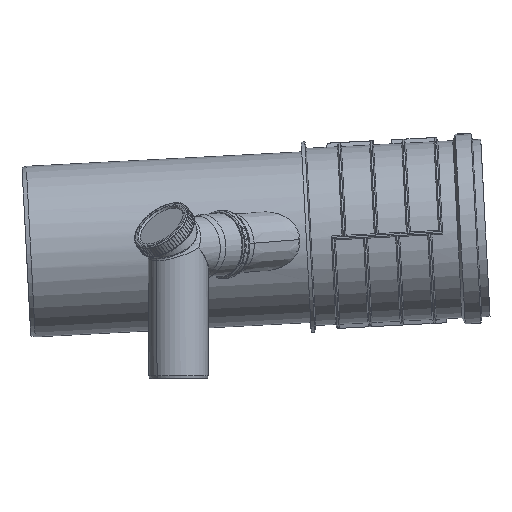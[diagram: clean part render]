
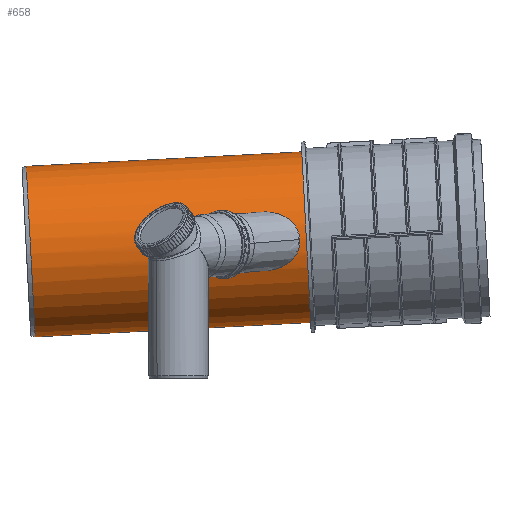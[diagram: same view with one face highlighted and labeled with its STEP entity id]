
A CAD part, top view. The second image highlights one B-rep face of the part: STEP entity #658.
In plain terms, the highlighted cylindrical face has radius 157.5 mm (diameter 315 mm), a partial arc.
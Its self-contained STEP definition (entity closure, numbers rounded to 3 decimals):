
#424=DIRECTION('',(0.,0.,-1.));
#425=VECTOR('',#424,511.5);
#426=CARTESIAN_POINT('',(-157.5,0.,656.));
#427=LINE('1107296302',#426,#425);
#433=DIRECTION('',(0.,0.,-1.));
#434=VECTOR('',#433,511.5);
#435=CARTESIAN_POINT('',(157.5,0.,656.));
#436=LINE('1107296300',#435,#434);
#437=CARTESIAN_POINT('',(0.,0.,144.5));
#438=DIRECTION('',(0.,0.,-1.));
#439=DIRECTION('',(-1.,0.,0.));
#440=AXIS2_PLACEMENT_3D('',#437,#438,#439);
#442=CARTESIAN_POINT('',(0.,0.,656.));
#443=DIRECTION('',(0.,0.,1.));
#444=DIRECTION('',(1.,0.,0.));
#445=AXIS2_PLACEMENT_3D('',#442,#443,#444);
#447=CARTESIAN_POINT('',(0.,157.5,163.05));
#448=CARTESIAN_POINT('',(3.119,157.5,163.05));
#449=CARTESIAN_POINT('',(9.238,157.317,163.661));
#450=CARTESIAN_POINT('',(18.158,156.53,166.389));
#451=CARTESIAN_POINT('',(26.418,155.339,170.843));
#452=CARTESIAN_POINT('',(34.084,153.826,177.253));
#453=CARTESIAN_POINT('',(40.634,152.21,185.456));
#454=CARTESIAN_POINT('',(46.048,150.644,195.851));
#455=CARTESIAN_POINT('',(49.852,149.412,208.26));
#456=CARTESIAN_POINT('',(51.688,148.777,222.56));
#457=CARTESIAN_POINT('',(51.447,148.861,236.367));
#458=CARTESIAN_POINT('',(49.799,149.426,248.824));
#459=CARTESIAN_POINT('',(47.254,150.254,259.731));
#460=CARTESIAN_POINT('',(44.14,151.201,269.219));
#461=CARTESIAN_POINT('',(40.687,152.169,277.367));
#462=CARTESIAN_POINT('',(37.051,153.096,284.305));
#463=CARTESIAN_POINT('',(33.304,153.955,290.216));
#464=CARTESIAN_POINT('',(29.416,154.746,295.32));
#465=CARTESIAN_POINT('',(25.374,155.461,299.709));
#466=CARTESIAN_POINT('',(21.115,156.1,303.477));
#467=CARTESIAN_POINT('',(16.446,156.665,306.709));
#468=CARTESIAN_POINT('',(11.294,157.126,309.278));
#469=CARTESIAN_POINT('',(5.718,157.43,310.945));
#470=CARTESIAN_POINT('',(1.929,157.5,311.324));
#471=CARTESIAN_POINT('',(0.,157.5,311.324));
#473=CARTESIAN_POINT('',(0.,157.5,311.324));
#474=CARTESIAN_POINT('',(-1.922,157.5,311.324));
#475=CARTESIAN_POINT('',(-5.699,157.431,310.947));
#476=CARTESIAN_POINT('',(-11.256,157.128,309.292));
#477=CARTESIAN_POINT('',(-16.399,156.67,306.736));
#478=CARTESIAN_POINT('',(-21.06,156.107,303.519));
#479=CARTESIAN_POINT('',(-25.303,155.473,299.778));
#480=CARTESIAN_POINT('',(-29.323,154.764,295.43));
#481=CARTESIAN_POINT('',(-33.194,153.979,290.372));
#482=CARTESIAN_POINT('',(-36.927,153.125,284.517));
#483=CARTESIAN_POINT('',(-40.55,152.205,277.653));
#484=CARTESIAN_POINT('',(-44.001,151.242,269.585));
#485=CARTESIAN_POINT('',(-47.125,150.295,260.183));
#486=CARTESIAN_POINT('',(-49.696,149.46,249.371));
#487=CARTESIAN_POINT('',(-51.394,148.88,237.004));
#488=CARTESIAN_POINT('',(-51.722,148.765,223.255));
#489=CARTESIAN_POINT('',(-49.981,149.368,208.85));
#490=CARTESIAN_POINT('',(-46.224,150.59,196.272));
#491=CARTESIAN_POINT('',(-40.822,152.16,185.738));
#492=CARTESIAN_POINT('',(-34.26,153.787,177.429));
#493=CARTESIAN_POINT('',(-26.569,155.314,170.94));
#494=CARTESIAN_POINT('',(-18.252,156.52,166.424));
#495=CARTESIAN_POINT('',(-9.284,157.315,163.667));
#496=CARTESIAN_POINT('',(-3.134,157.5,163.05));
#497=CARTESIAN_POINT('',(0.,157.5,163.05));
#508=CARTESIAN_POINT('',(157.5,0.,656.));
#510=VERTEX_POINT('',#508);
#512=CARTESIAN_POINT('',(-157.5,0.,656.));
#514=VERTEX_POINT('',#512);
#523=CARTESIAN_POINT('',(-157.5,0.,144.5));
#524=CARTESIAN_POINT('',(157.5,0.,144.5));
#525=VERTEX_POINT('',#523);
#526=VERTEX_POINT('',#524);
#529=VERTEX_POINT('',#447);
#530=VERTEX_POINT('',#471);
#641=CARTESIAN_POINT('',(0.,0.,-33.2));
#642=DIRECTION('',(0.,0.,1.));
#643=DIRECTION('',(-1.,0.,0.));
#644=AXIS2_PLACEMENT_3D('',#641,#642,#643);
#645=CYLINDRICAL_SURFACE('162',#644,157.5);
#646=ORIENTED_EDGE('1107296294',*,*,#558,.T.);
#647=ORIENTED_EDGE('1107296300',*,*,#636,.F.);
#648=ORIENTED_EDGE('163',*,*,#609,.T.);
#649=ORIENTED_EDGE('1107296302',*,*,#633,.T.);
#650=EDGE_LOOP('162',(#646,#647,#648,#649));
#651=FACE_OUTER_BOUND('162',#650,.F.);
#653=ORIENTED_EDGE('1107296368',*,*,#652,.F.);
#655=ORIENTED_EDGE('1107296369',*,*,#654,.F.);
#656=EDGE_LOOP('162',(#653,#655));
#657=FACE_BOUND('162',#656,.F.);
#441=CIRCLE('1107296294',#440,157.5);
#446=CIRCLE('163',#445,157.5);
#472=B_SPLINE_CURVE_WITH_KNOTS('1107296368',3,(#447,#448,#449,#450,#451,#452,
#453,#454,#455,#456,#457,#458,#459,#460,#461,#462,#463,#464,#465,#466,#467,#468,
#469,#470,#471),.UNSPECIFIED.,.F.,.F.,(4,1,1,1,1,1,1,1,1,1,1,1,1,1,1,1,1,1,1,1,
1,1,4),(0.,0.045,0.091,0.136,
0.182,0.227,0.273,0.318,
0.364,0.409,0.455,0.5,0.545,
0.591,0.636,0.682,0.727,
0.773,0.818,0.864,0.909,
0.955,1.),.UNSPECIFIED.);
#498=B_SPLINE_CURVE_WITH_KNOTS('1107296369',3,(#473,#474,#475,#476,#477,#478,
#479,#480,#481,#482,#483,#484,#485,#486,#487,#488,#489,#490,#491,#492,#493,#494,
#495,#496,#497),.UNSPECIFIED.,.F.,.F.,(4,1,1,1,1,1,1,1,1,1,1,1,1,1,1,1,1,1,1,1,
1,1,4),(0.,0.045,0.091,0.136,
0.182,0.227,0.273,0.318,
0.364,0.409,0.455,0.5,0.545,
0.591,0.636,0.682,0.727,
0.773,0.818,0.864,0.909,
0.955,1.),.UNSPECIFIED.);
#558=EDGE_CURVE('1107296294',#525,#526,#441,.T.);
#609=EDGE_CURVE('163',#510,#514,#446,.T.);
#633=EDGE_CURVE('1107296302',#514,#525,#427,.T.);
#636=EDGE_CURVE('1107296300',#510,#526,#436,.T.);
#652=EDGE_CURVE('1107296368',#529,#530,#472,.T.);
#654=EDGE_CURVE('1107296369',#530,#529,#498,.T.);
#658=ADVANCED_FACE('162',(#651,#657),#645,.T.);
